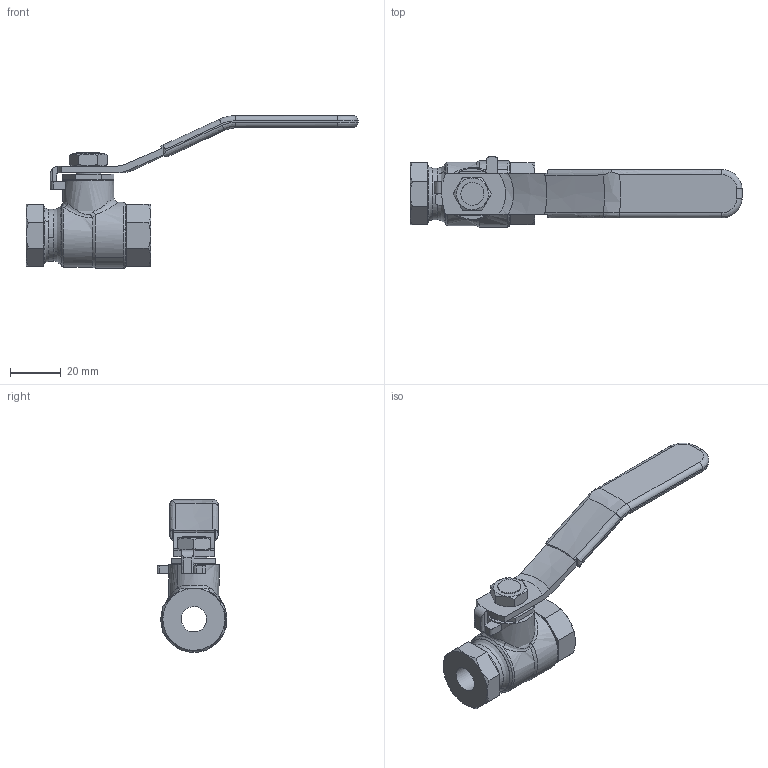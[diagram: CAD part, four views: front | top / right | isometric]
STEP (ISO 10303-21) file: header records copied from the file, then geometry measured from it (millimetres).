
FILE_DESCRIPTION((''),'2;1');
FILE_NAME('','2021-06-08T10:59:27',(''),(''),'','CADfix','');
FILE_SCHEMA(('AUTOMOTIVE_DESIGN { 1 0 10303 214 1 1 1 1 }'));
Length unit declared in the file: millimetre
Bounding box: 130.48 x 27.5 x 60 mm (x, y, z)
Volume: 32752.2 mm3; surface area: 12890.7 mm2
Topology: 1 solids, 1 shells, 174 faces, 540 edges, 375 vertices
Faces by surface type: bspline 174
Entity records: 9362 total; most frequent: CARTESIAN_POINT 6230, ORIENTED_EDGE 1080, EDGE_CURVE 540, VERTEX_POINT 375, B_SPLINE_CURVE_WITH_KNOTS 314, QUASI_UNIFORM_CURVE 188, EDGE_LOOP 185, FACE_OUTER_BOUND 174
